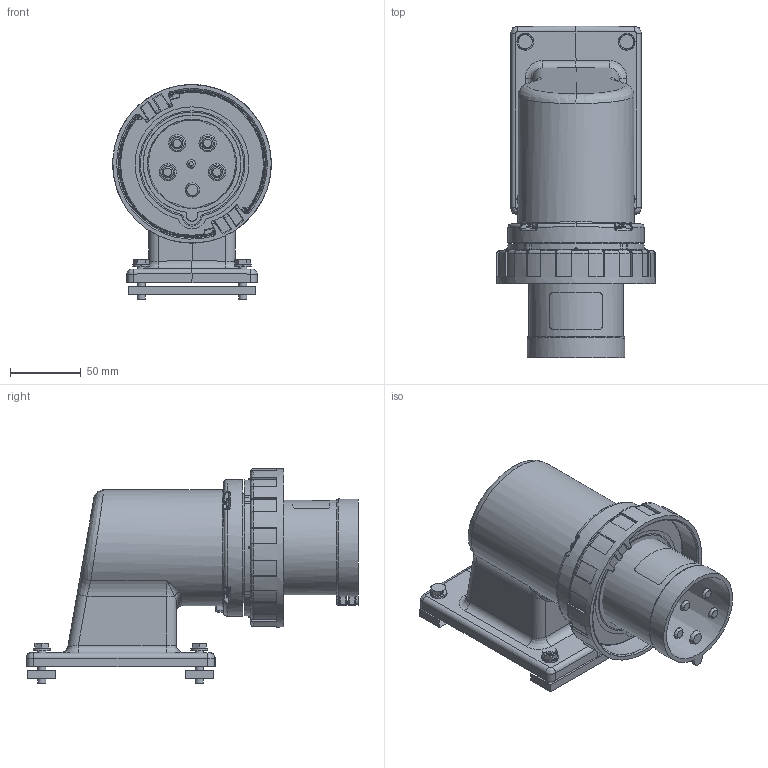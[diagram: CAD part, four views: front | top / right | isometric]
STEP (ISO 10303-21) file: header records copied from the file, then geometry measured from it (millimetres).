
FILE_DESCRIPTION(/* description */ (''),/* implementation_level */ '2;1');
FILE_NAME(/* name */ '4003930.stp',/* time_stamp */ '2016-09-22T15:42:24+02:00',/* author */ (''),/* organization */ (''),/* preprocessor_version */ 'ST-DEVELOPER v16',/* originating_system */ 'SIEMENS PLM Software NX 11.0',/* authorisation */ '');
FILE_SCHEMA (('AUTOMOTIVE_DESIGN { 1 0 10303 214 3 1 1 1 }'));
Length unit declared in the file: millimetre
Products named in the file (1): 4003930_LINKEDEXT_jt
Bounding box: 111.98 x 234.54 x 151.81 mm (x, y, z)
Surface area: 192682.8 mm2 (no closed solid volume)
Topology: 0 solids, 43 shells, 555 faces, 2051 edges, 1458 vertices
Faces by surface type: plane 168, cylinder 152, bspline 130, torus 72, cone 29, sphere 4
Full cylindrical faces by diameter (mm): 5.795 x4, 6.5 x1, 67 x1, 82 x1, 96.4 x1, 98.5 x1, 104.5 x1, 112 x1
Entity records: 33181 total; most frequent: CARTESIAN_POINT 14040, DIRECTION 3011, ORIENTED_EDGE 2913, EDGE_CURVE 1974, VERTEX_POINT 1436, AXIS2_PLACEMENT_3D 1194, LINE 623, VECTOR 623
